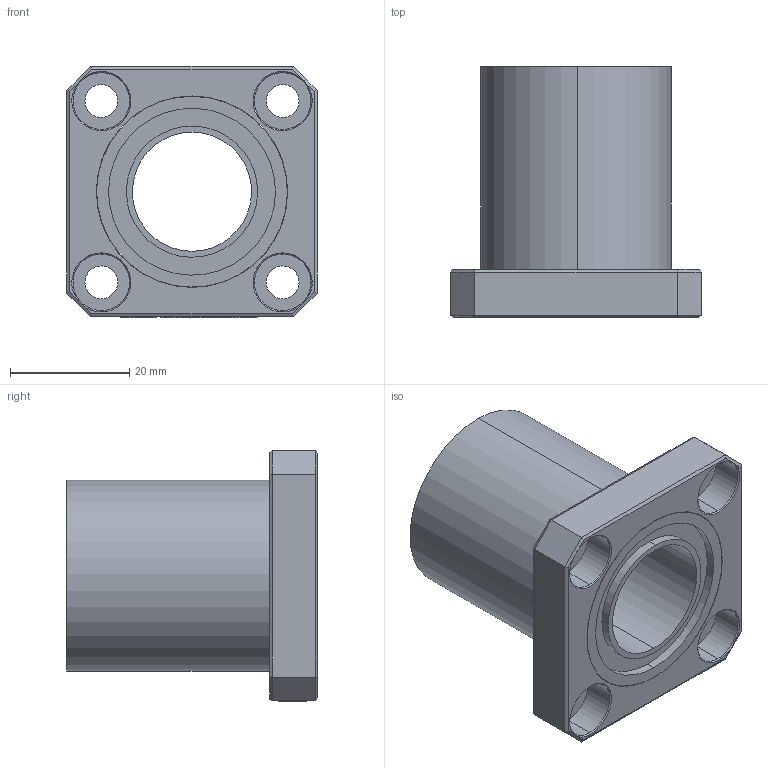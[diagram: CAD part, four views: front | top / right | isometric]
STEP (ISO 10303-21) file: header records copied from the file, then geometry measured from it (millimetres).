
FILE_DESCRIPTION (( 'STEP AP214' ), '1' );
FILE_NAME ('LMK20UU.STEP', '2020-12-11T11:30:42', ( '' ), ( '' ), 'SwSTEP 2.0', 'SolidWorks 2018', '' );
FILE_SCHEMA (( 'AUTOMOTIVE_DESIGN' ));
Length unit declared in the file: millimetre
Products named in the file (3): LMK20UU Part2; LMK20UU Part1; LMK20UU
Assembly tree (2 placements, depth 2):
  LMK20UU
    LMK20UU Part1
    LMK20UU Part2
Bounding box: 42 x 42 x 42.1 mm (x, y, z)
Volume: 25335.4 mm3; surface area: 12764 mm2
Topology: 13 solids, 13 shells, 189 faces, 443 edges, 284 vertices
Faces by surface type: plane 109, bspline 32, cylinder 30, cone 18
Entity records: 8673 total; most frequent: CARTESIAN_POINT 2917, ORIENTED_EDGE 886, DIRECTION 781, EDGE_CURVE 443, VECTOR 293, LINE 293, VERTEX_POINT 284, AXIS2_PLACEMENT_3D 244
